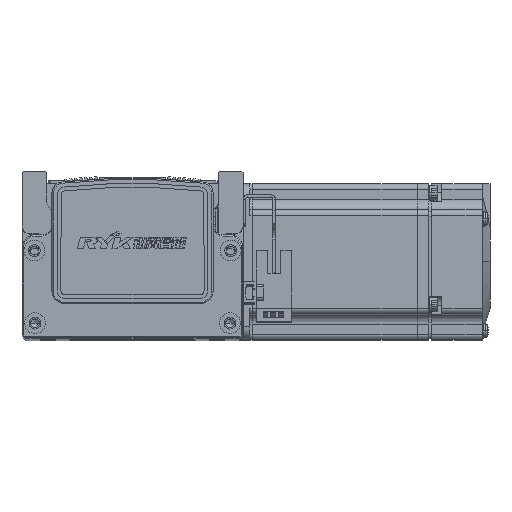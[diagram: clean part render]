
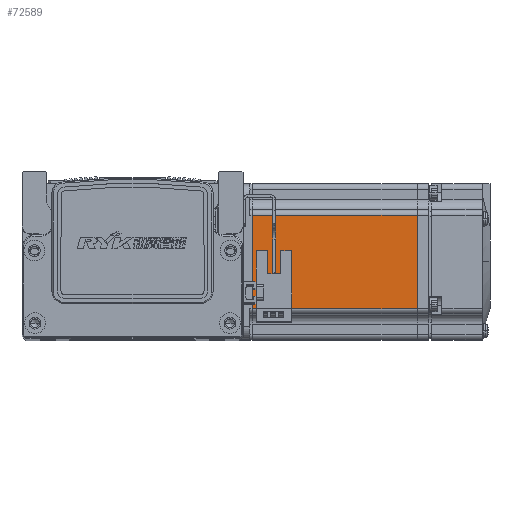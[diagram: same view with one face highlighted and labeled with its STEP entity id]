
A CAD part, top view. The second image highlights one B-rep face of the part: STEP entity #72589.
In plain terms, the highlighted planar face has unit normal (0, 0, 1) as drawn and (0, 0, -1) by its records, which use the part's own axes.
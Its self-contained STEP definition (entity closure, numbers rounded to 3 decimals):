
#316 = CARTESIAN_POINT ( 'NONE',  ( -70.95, 18., -30. ) ) ;
#353 = CARTESIAN_POINT ( 'NONE',  ( -70.95, -18., -30. ) ) ;
#373 = CARTESIAN_POINT ( 'NONE',  ( -7.75, -18., -30. ) ) ;
#379 = CARTESIAN_POINT ( 'NONE',  ( -7.75, 18., -30. ) ) ;
#1873 = VERTEX_POINT ( 'NONE', #353 ) ;
#1919 = VERTEX_POINT ( 'NONE', #316 ) ;
#1942 = VERTEX_POINT ( 'NONE', #373 ) ;
#1963 = VERTEX_POINT ( 'NONE', #379 ) ;
#3767 = PLANE ( 'NONE',  #24897 ) ;
#3768 = CARTESIAN_POINT ( 'NONE',  ( -6.5, 25., -30. ) ) ;
#3786 = DIRECTION ( 'NONE',  ( -1., 0., 0. ) ) ;
#3793 = DIRECTION ( 'NONE',  ( 0., 0., -1. ) ) ;
#11087 = CARTESIAN_POINT ( 'NONE',  ( -70.95, 25., -30. ) ) ;
#11090 = DIRECTION ( 'NONE',  ( 0., 1., 0. ) ) ;
#11160 = CARTESIAN_POINT ( 'NONE',  ( -6.5, 18., -30. ) ) ;
#11168 = DIRECTION ( 'NONE',  ( 1., 0., 0. ) ) ;
#11365 = CARTESIAN_POINT ( 'NONE',  ( -6.5, -18., -30. ) ) ;
#11379 = DIRECTION ( 'NONE',  ( -1., 0., 0. ) ) ;
#11380 = CARTESIAN_POINT ( 'NONE',  ( -7.75, 25., -30. ) ) ;
#11395 = DIRECTION ( 'NONE',  ( 0., -1., 0. ) ) ;
#12961 = EDGE_LOOP ( 'NONE', ( #50529, #50651, #50571, #50658 ) ) ;
#24897 = AXIS2_PLACEMENT_3D ( 'NONE', #3768, #3793, #3786 ) ;
#25005 = EDGE_CURVE ( 'NONE', #1873, #1919, #65352, .T. ) ;
#25105 = EDGE_CURVE ( 'NONE', #1919, #1963, #65458, .T. ) ;
#25280 = EDGE_CURVE ( 'NONE', #1963, #1942, #65569, .T. ) ;
#25295 = EDGE_CURVE ( 'NONE', #1942, #1873, #65579, .T. ) ;
#30922 = FACE_OUTER_BOUND ( 'NONE', #12961, .T. ) ;
#50529 = ORIENTED_EDGE ( 'NONE', *, *, #25280, .T. ) ;
#50571 = ORIENTED_EDGE ( 'NONE', *, *, #25005, .T. ) ;
#50651 = ORIENTED_EDGE ( 'NONE', *, *, #25295, .T. ) ;
#50658 = ORIENTED_EDGE ( 'NONE', *, *, #25105, .T. ) ;
#65352 = LINE ( 'NONE', #11087, #65402 ) ;
#65402 = VECTOR ( 'NONE', #11090, 1000. ) ;
#65416 = VECTOR ( 'NONE', #11168, 1000. ) ;
#65458 = LINE ( 'NONE', #11160, #65416 ) ;
#65569 = LINE ( 'NONE', #11380, #65570 ) ;
#65570 = VECTOR ( 'NONE', #11395, 1000. ) ;
#65579 = LINE ( 'NONE', #11365, #65613 ) ;
#65613 = VECTOR ( 'NONE', #11379, 1000. ) ;
#72589 = ADVANCED_FACE ( 'NONE', ( #30922 ), #3767, .T. ) ;
